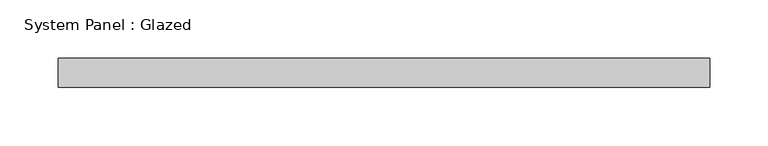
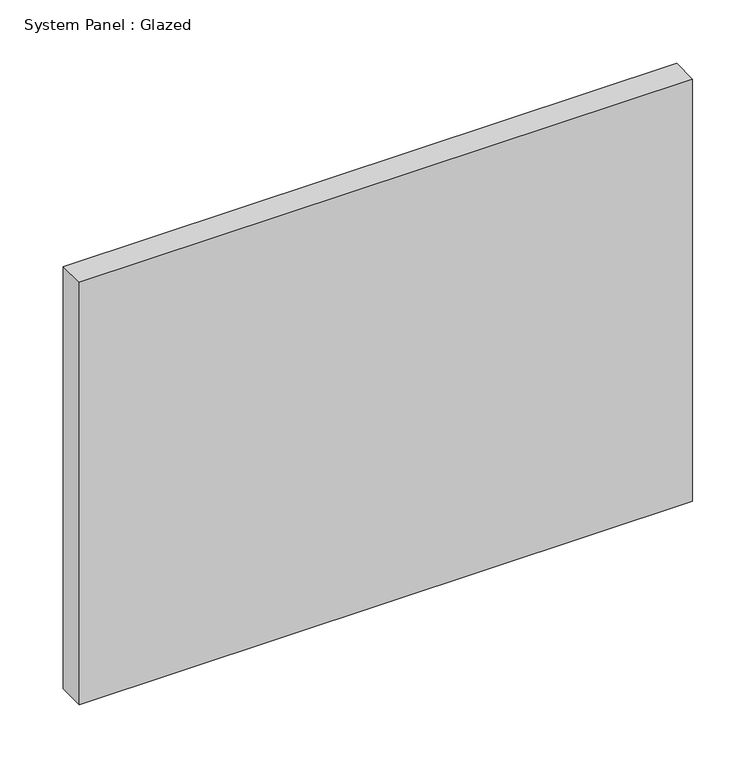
"""IFC4 building model written with IfcOpenShell, lengths in millimetres: plate geometry, System Panel : Glazed."""

from ifc_helpers import new_model, si_unit, origin, origin_with_axes, place, context, project, spatial, polyline, outline, extrude, source, transform, mapped, element, save


def system_panel_glazed_4d81ba74(model_context):
    return source(origin(), model_context, "Body", "SweptSolid", [
        extrude(outline(polyline([(279.8, 24.5), (-279.8, 24.5), (-279.8, 49.5), (279.8, 49.5), (279.8, 24.5)])), origin_with_axes(), (0.0, 0.0, 1.0), 407.2),
    ])


if __name__ == "__main__":
    model = new_model("IFC4")
    model_context = context("Model", 3, world=origin())
    ifc_project = project(units=[si_unit("LENGTHUNIT", "METRE", prefix="MILLI")], contexts=[model_context])
    site = spatial("IfcSite", under=ifc_project)
    building = spatial("IfcBuilding", under=site)
    placement = place(None, origin())
    system_panel_glazed_shape = system_panel_glazed_4d81ba74(model_context)
    element("IfcPlate", 1, ObjectType="System Panel : Glazed", at=placement, inside=building, context=model_context, shape_type="MappedRepresentation", body=[
        mapped(system_panel_glazed_shape, transform((0.0, 0.0, 0.0), x_axis=(1.0, 0.0, 0.0), y_axis=(0.0, 1.0, 0.0), z_axis=(0.0, 0.0, 1.0))),
    ])
    save(model, "model.ifc")
